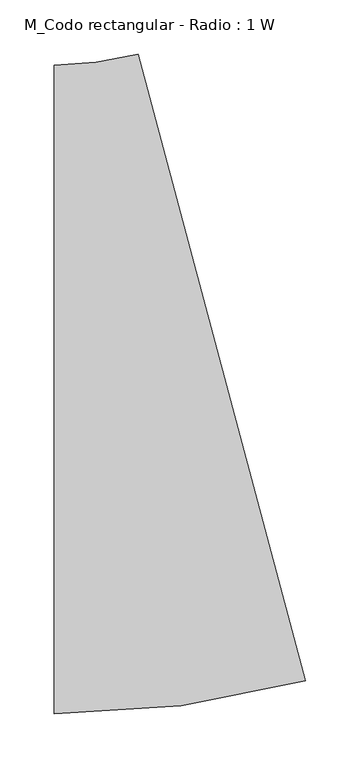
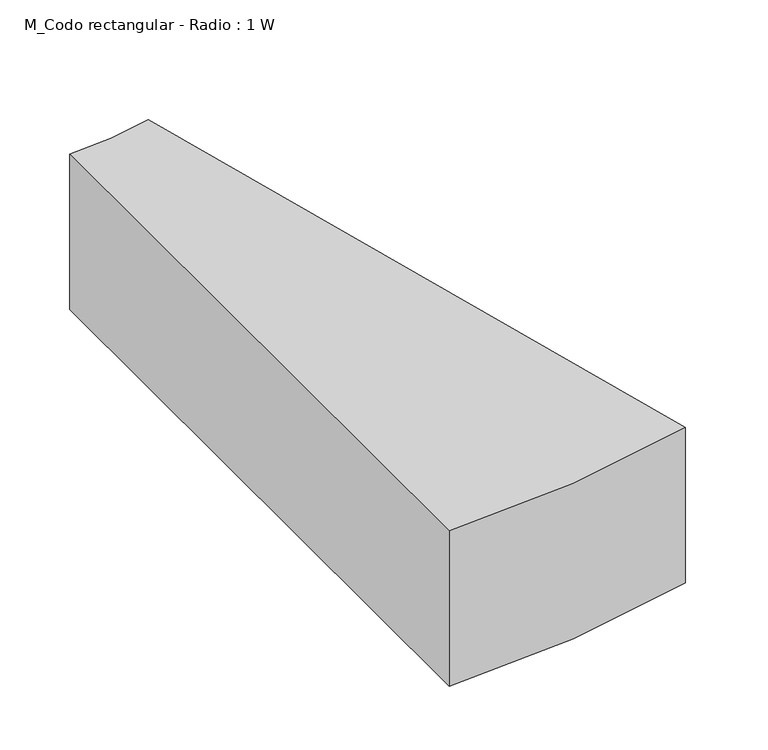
"""IFC4 building model written with IfcOpenShell, lengths in millimetres: duct fitting geometry, M_Codo rectangular - Radio : 1 W."""

from ifc_helpers import new_model, si_unit, point, frame, frame_2d, origin, place, context, project, spatial, polyline, circle_curve, trimmed, segment, composite_curve, outline, extrude, source, transform, mapped, element, save


def m_codo_rectangular_radio_1_w_cb998d56(model_context):
    return source(origin(), model_context, "Body", "SweptSolid", [
        extrude(outline(composite_curve([segment(trimmed(circle_curve(frame_2d((-78.9914986, 600.0)), 900.0), [point((153.945642, -269.3332437))], [point((-78.9914986, -300.0))], False, "CARTESIAN"), True, "CONTINUOUS"), segment(polyline([(-78.9914986, -300.0), (-78.9914986, 300.0)]), True, "CONTINUOUS"), segment(trimmed(circle_curve(frame_2d((-78.9914986, 600.0)), 300.0), [point((-78.9914986, 300.0))], [point((-1.345785, 310.2222521))], True, "CARTESIAN"), True, "CONTINUOUS"), segment(polyline([(-1.345785, 310.2222521), (153.945642, -269.3332437)]), True, "CONTINUOUS")], self_intersect=False)), frame((0.0, 0.0, -75.0), z_axis=(0.0, 0.0, 1.0), x_axis=(1.0, 0.0, 0.0)), (0.0, 0.0, 1.0), 150.0),
    ])


if __name__ == "__main__":
    model = new_model("IFC4")
    model_context = context("Model", 3, world=origin())
    ifc_project = project(units=[si_unit("LENGTHUNIT", "METRE", prefix="MILLI")], contexts=[model_context])
    site = spatial("IfcSite", under=ifc_project)
    building = spatial("IfcBuilding", under=site)
    placement = place(None, origin())
    m_codo_rectangular_radio_1_w_shape = m_codo_rectangular_radio_1_w_cb998d56(model_context)
    element("IfcDuctFitting", 1, ObjectType="M_Codo rectangular - Radio : 1 W", at=placement, inside=building, context=model_context, shape_type="MappedRepresentation", body=[
        mapped(m_codo_rectangular_radio_1_w_shape, transform((0.0, 0.0, 0.0), x_axis=(1.0, 0.0, 0.0), y_axis=(0.0, 1.0, 0.0), z_axis=(0.0, 0.0, 1.0))),
    ])
    save(model, "model.ifc")
